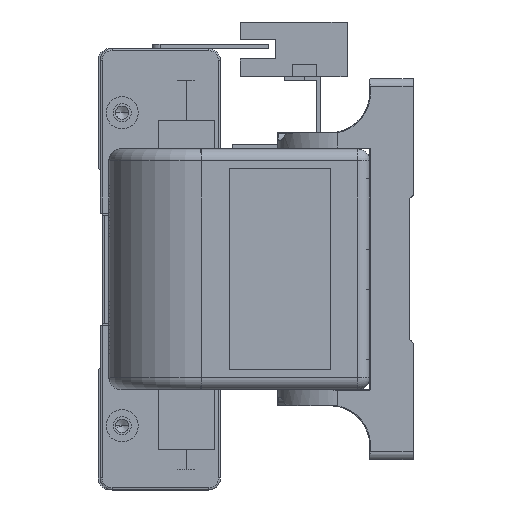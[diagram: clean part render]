
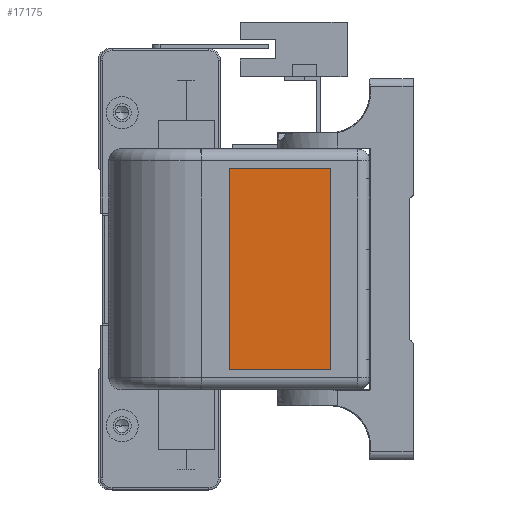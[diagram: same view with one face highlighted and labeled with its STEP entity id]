
A CAD part, left-side view. The second image highlights one B-rep face of the part: STEP entity #17175.
In plain terms, the highlighted planar face has unit normal (-1, 0, 0) as drawn and (1, 0, 0) by its records, which use the part's own axes.
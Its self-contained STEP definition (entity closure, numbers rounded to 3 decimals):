
#269 = CARTESIAN_POINT ( 'NONE',  ( 23.3, 0., 0. ) ) ;
#453 = LINE ( 'NONE', #10041, #30341 ) ;
#716 = AXIS2_PLACEMENT_3D ( 'NONE', #269, #2664, #19147 ) ;
#2664 = DIRECTION ( 'NONE',  ( 1., 0., 0. ) ) ;
#4028 = ORIENTED_EDGE ( 'NONE', *, *, #25372, .T. ) ;
#4276 = LINE ( 'NONE', #5032, #22335 ) ;
#4586 = EDGE_LOOP ( 'NONE', ( #4028, #28297, #18622, #17181 ) ) ;
#5032 = CARTESIAN_POINT ( 'NONE',  ( 23.3, 9.83, 55. ) ) ;
#5236 = LINE ( 'NONE', #27096, #29581 ) ;
#9021 = VERTEX_POINT ( 'NONE', #26587 ) ;
#9086 = CARTESIAN_POINT ( 'NONE',  ( 23.3, 35., 55. ) ) ;
#10041 = CARTESIAN_POINT ( 'NONE',  ( 23.3, 35., 55. ) ) ;
#13528 = FACE_OUTER_BOUND ( 'NONE', #4586, .T. ) ;
#16771 = DIRECTION ( 'NONE',  ( 0., 0., -1. ) ) ;
#17175 = ADVANCED_FACE ( 'N', ( #13528 ), #23760, .T. ) ;
#17181 = ORIENTED_EDGE ( 'NONE', *, *, #23303, .T. ) ;
#18622 = ORIENTED_EDGE ( 'NONE', *, *, #20217, .T. ) ;
#19147 = DIRECTION ( 'NONE',  ( 0., 0., -1. ) ) ;
#19365 = CARTESIAN_POINT ( 'NONE',  ( 23.3, 9.83, 55. ) ) ;
#20217 = EDGE_CURVE ( 'NONE', #30350, #9021, #5236, .T. ) ;
#22335 = VECTOR ( 'NONE', #16771, 1000. ) ;
#23210 = DIRECTION ( 'NONE',  ( 0., 0., 1. ) ) ;
#23303 = EDGE_CURVE ( 'NONE', #9021, #24342, #25000, .T. ) ;
#23760 = PLANE ( 'NONE',  #716 ) ;
#24138 = DIRECTION ( 'NONE',  ( 0., -1., 0. ) ) ;
#24342 = VERTEX_POINT ( 'NONE', #24812 ) ;
#24812 = CARTESIAN_POINT ( 'NONE',  ( 23.3, 35., 55. ) ) ;
#25000 = LINE ( 'NONE', #9086, #30543 ) ;
#25372 = EDGE_CURVE ( 'NONE', #24342, #28100, #453, .T. ) ;
#26467 = CARTESIAN_POINT ( 'NONE',  ( 23.3, 9.83, 4.898 ) ) ;
#26587 = CARTESIAN_POINT ( 'NONE',  ( 23.3, 35., 4.898 ) ) ;
#27096 = CARTESIAN_POINT ( 'NONE',  ( 23.3, 35., 4.898 ) ) ;
#28100 = VERTEX_POINT ( 'NONE', #19365 ) ;
#28297 = ORIENTED_EDGE ( 'NONE', *, *, #29551, .T. ) ;
#29459 = DIRECTION ( 'NONE',  ( 0., 1., 0. ) ) ;
#29551 = EDGE_CURVE ( 'NONE', #28100, #30350, #4276, .T. ) ;
#29581 = VECTOR ( 'NONE', #29459, 1000. ) ;
#30341 = VECTOR ( 'NONE', #24138, 1000. ) ;
#30350 = VERTEX_POINT ( 'NONE', #26467 ) ;
#30543 = VECTOR ( 'NONE', #23210, 1000. ) ;
